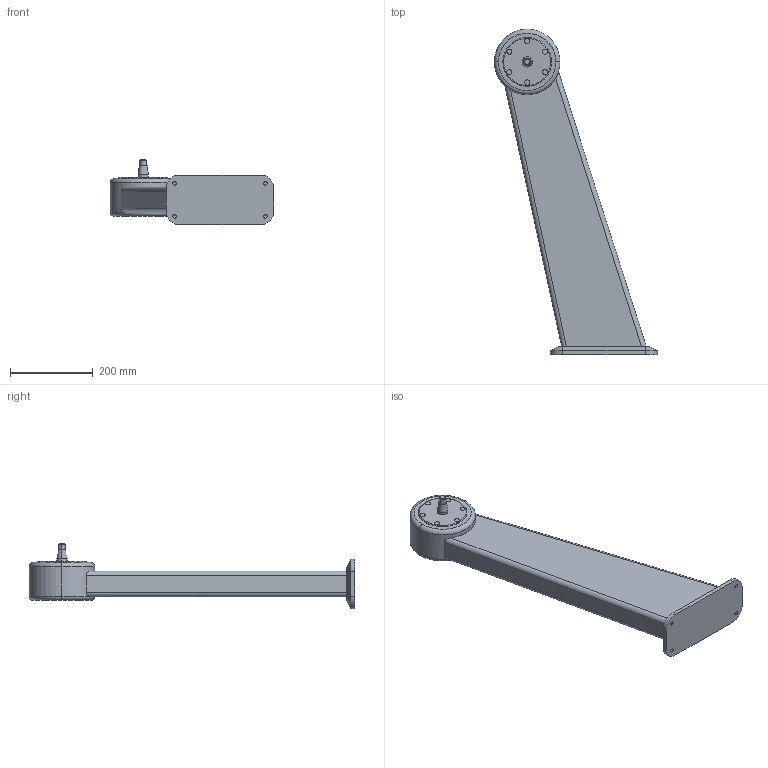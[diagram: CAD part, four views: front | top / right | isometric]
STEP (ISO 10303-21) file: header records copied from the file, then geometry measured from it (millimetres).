
FILE_DESCRIPTION (( 'STEP AP214' ), '1' );
FILE_NAME ('WP700_H710_+15.STEP', '2014-08-14T09:52:25', ( '' ), ( '' ), 'SwSTEP 2.0', 'SolidWorks 2014', '' );
FILE_SCHEMA (( 'AUTOMOTIVE_DESIGN' ));
Length unit declared in the file: millimetre
Products named in the file (1): WP700_H710_+15
Bounding box: 395.69 x 789.5 x 158.3 mm (x, y, z)
Volume: 9071669.6 mm3; surface area: 420176.4 mm2
Topology: 1 solids, 1 shells, 79 faces, 171 edges, 108 vertices
Faces by surface type: cylinder 36, plane 29, cone 8, torus 6
Entity records: 2294 total; most frequent: CARTESIAN_POINT 475, DIRECTION 408, ORIENTED_EDGE 342, EDGE_CURVE 171, AXIS2_PLACEMENT_3D 167, VERTEX_POINT 108, EDGE_LOOP 93, CIRCLE 87
